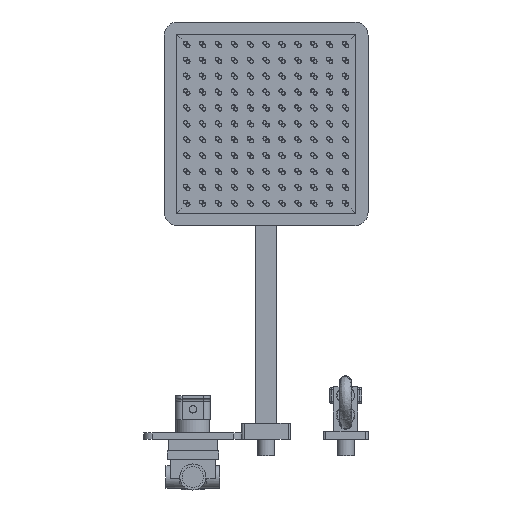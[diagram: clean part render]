
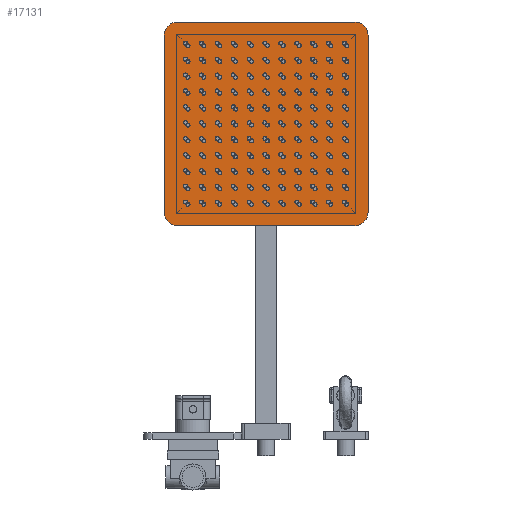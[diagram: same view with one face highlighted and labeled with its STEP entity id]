
A CAD part, front view. The second image highlights one B-rep face of the part: STEP entity #17131.
In plain terms, the highlighted planar face has unit normal (0, -1, 0).
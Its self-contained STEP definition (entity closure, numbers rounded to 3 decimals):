
#1669=PLANE('',#19279);
#2830=FACE_OUTER_BOUND('',#4270,.T.);
#4270=EDGE_LOOP('',(#14123,#14124,#14125,#14126,#14127,#14128,#14129,#14130));
#5954=LINE('',#29507,#7427);
#5960=LINE('',#29522,#7433);
#5962=LINE('',#29528,#7435);
#5975=LINE('',#29574,#7448);
#7427=VECTOR('',#22687,10.);
#7433=VECTOR('',#22703,10.);
#7435=VECTOR('',#22711,10.);
#7448=VECTOR('',#22766,10.);
#8330=CIRCLE('',#19242,16.);
#8335=CIRCLE('',#19250,16.);
#8336=CIRCLE('',#19252,16.);
#8337=CIRCLE('',#19255,16.);
#9384=VERTEX_POINT('',#29475);
#9385=VERTEX_POINT('',#29476);
#9398=VERTEX_POINT('',#29506);
#9399=VERTEX_POINT('',#29510);
#9400=VERTEX_POINT('',#29514);
#9401=VERTEX_POINT('',#29515);
#9402=VERTEX_POINT('',#29520);
#9403=VERTEX_POINT('',#29524);
#11079=EDGE_CURVE('',#9384,#9385,#8330,.T.);
#11094=EDGE_CURVE('',#9398,#9385,#5954,.T.);
#11096=EDGE_CURVE('',#9398,#9399,#8335,.T.);
#11098=EDGE_CURVE('',#9400,#9401,#8336,.T.);
#11102=EDGE_CURVE('',#9400,#9402,#5960,.T.);
#11103=EDGE_CURVE('',#9403,#9402,#8337,.T.);
#11105=EDGE_CURVE('',#9403,#9399,#5962,.T.);
#11126=EDGE_CURVE('',#9384,#9401,#5975,.T.);
#14123=ORIENTED_EDGE('',*,*,#11079,.F.);
#14124=ORIENTED_EDGE('',*,*,#11126,.T.);
#14125=ORIENTED_EDGE('',*,*,#11098,.F.);
#14126=ORIENTED_EDGE('',*,*,#11102,.T.);
#14127=ORIENTED_EDGE('',*,*,#11103,.F.);
#14128=ORIENTED_EDGE('',*,*,#11105,.T.);
#14129=ORIENTED_EDGE('',*,*,#11096,.F.);
#14130=ORIENTED_EDGE('',*,*,#11094,.T.);
#17131=ADVANCED_FACE('',(#2830),#1669,.T.);
#19242=AXIS2_PLACEMENT_3D('',#29477,#22663,#22664);
#19250=AXIS2_PLACEMENT_3D('',#29511,#22691,#22692);
#19252=AXIS2_PLACEMENT_3D('',#29516,#22696,#22697);
#19255=AXIS2_PLACEMENT_3D('',#29525,#22706,#22707);
#19279=AXIS2_PLACEMENT_3D('',#29576,#22769,#22770);
#22663=DIRECTION('center_axis',(0.,1.,0.));
#22664=DIRECTION('ref_axis',(-0.707,0.,0.707));
#22687=DIRECTION('',(-1.,0.,0.));
#22691=DIRECTION('center_axis',(0.,1.,0.));
#22692=DIRECTION('ref_axis',(0.707,0.,0.707));
#22696=DIRECTION('center_axis',(0.,1.,0.));
#22697=DIRECTION('ref_axis',(-0.707,0.,-0.707));
#22703=DIRECTION('',(1.,0.,0.));
#22706=DIRECTION('center_axis',(0.,1.,0.));
#22707=DIRECTION('ref_axis',(0.707,0.,-0.707));
#22711=DIRECTION('',(0.,0.,1.));
#22766=DIRECTION('',(0.,0.,-1.));
#22769=DIRECTION('center_axis',(0.,-1.,0.));
#22770=DIRECTION('ref_axis',(0.,0.,-1.));
#29475=CARTESIAN_POINT('',(-125.,-5.,109.));
#29476=CARTESIAN_POINT('',(-109.,-5.,125.));
#29477=CARTESIAN_POINT('Origin',(-109.,-5.,109.));
#29506=CARTESIAN_POINT('',(109.,-5.,125.));
#29507=CARTESIAN_POINT('',(-125.,-5.,125.));
#29510=CARTESIAN_POINT('',(125.,-5.,109.));
#29511=CARTESIAN_POINT('Origin',(109.,-5.,109.));
#29514=CARTESIAN_POINT('',(-109.,-5.,-125.));
#29515=CARTESIAN_POINT('',(-125.,-5.,-109.));
#29516=CARTESIAN_POINT('Origin',(-109.,-5.,-109.));
#29520=CARTESIAN_POINT('',(109.,-5.,-125.));
#29522=CARTESIAN_POINT('',(125.,-5.,-125.));
#29524=CARTESIAN_POINT('',(125.,-5.,-109.));
#29525=CARTESIAN_POINT('Origin',(109.,-5.,-109.));
#29528=CARTESIAN_POINT('',(125.,-5.,125.));
#29574=CARTESIAN_POINT('',(-125.,-5.,-125.));
#29576=CARTESIAN_POINT('Origin',(0.,-5.,0.));
